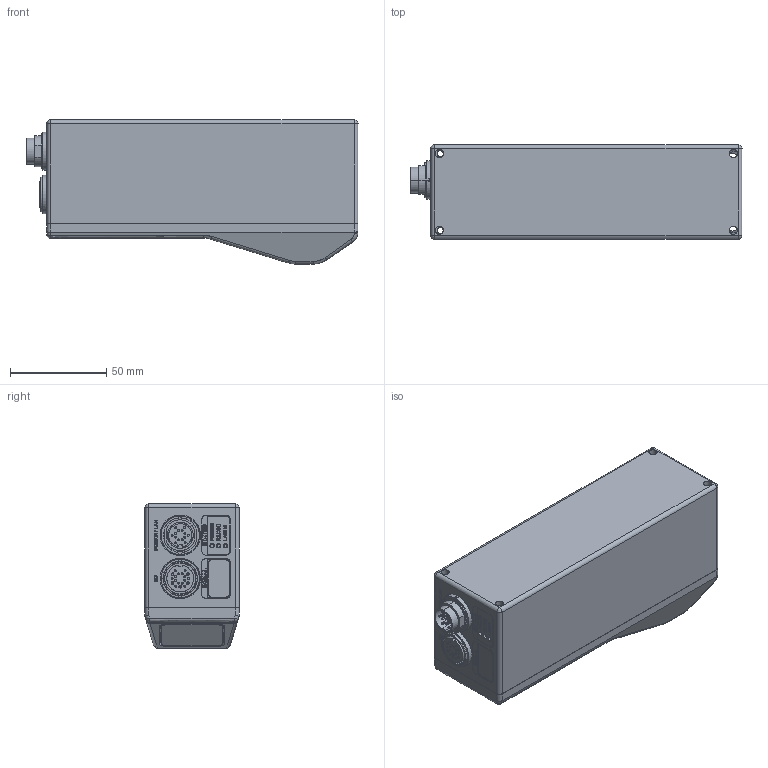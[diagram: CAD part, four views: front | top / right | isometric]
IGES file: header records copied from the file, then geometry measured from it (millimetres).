
Start section: SolidWorks IGES file using analytic representation for surfaces
Global section: file name: C:\_LMI\VAULT\SENSORS\dev\RD\Gocator\Models\1x00\_Base\Documents\Manual Drawings\Goactor 1x00 Basic Housing, 162mm.IGS; native system: SolidWorks 2012; preprocessor: SolidWorks 2012; author: Jeff; date: 130122.152837; units: millimetre
Bounding box: 172.75 x 49 x 75 mm (x, y, z)
Surface area: 49300 mm2 (no closed solid volume)
Topology: 0 solids, 0 shells, 370 faces, 5878 edges, 5840 vertices
Faces by surface type: revolution 218, bspline 152
